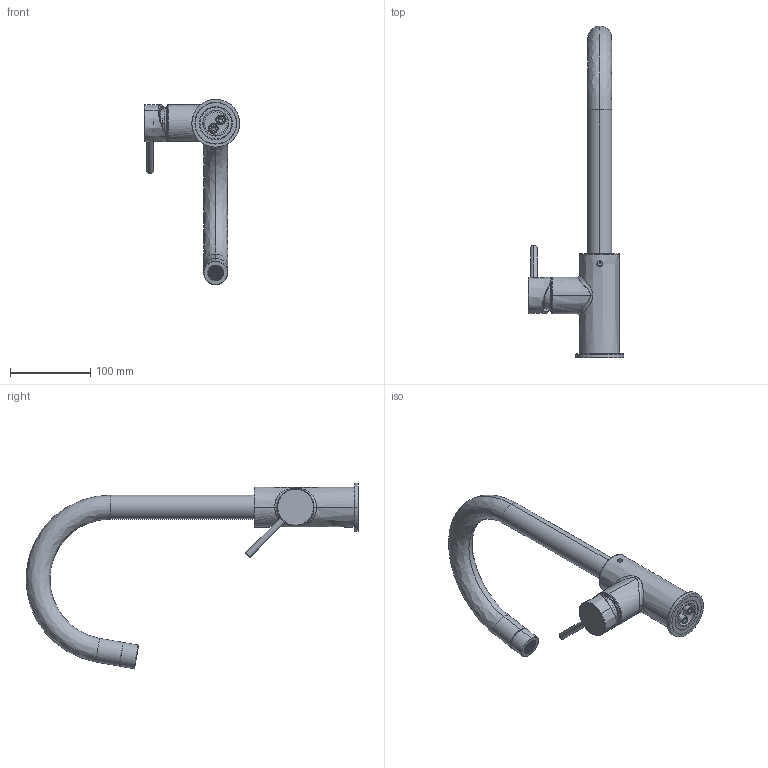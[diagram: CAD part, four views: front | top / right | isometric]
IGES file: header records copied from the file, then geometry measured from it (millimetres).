
Start section:  PTC IGES file: 45175.igs
Global section: file name: 45175.igs; native system: Creo Parametric by PTC Inc.; preprocessor: 2022014; author: carloff; organization: Unknown; date: 20260908.161329; units: millimetre
Bounding box: 119.22 x 415 x 231.81 mm (x, y, z)
Surface area: 168729 mm2 (no closed solid volume)
Topology: 0 solids, 0 shells, 2611 faces, 18700 edges, 18680 vertices
Faces by surface type: bspline 2191, revolution 420
